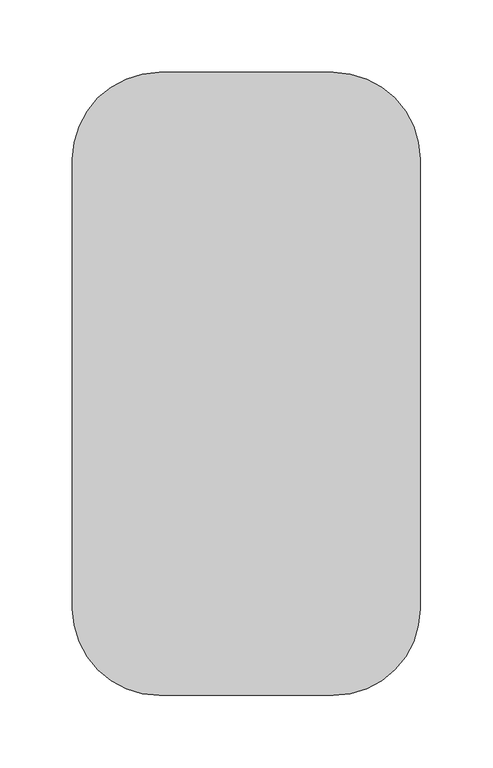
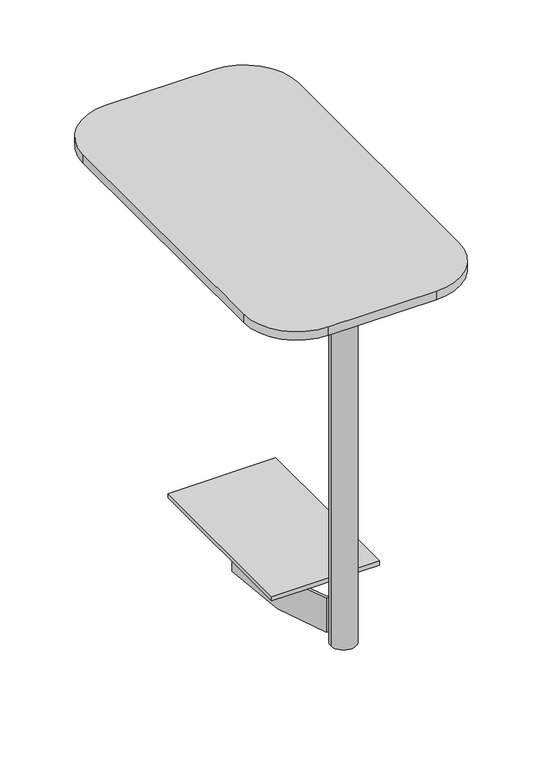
"""IFC4 building model written with IfcOpenShell, lengths in millimetres: furniture geometry, Nooa - table with leg : Nooa - table with leg."""

from ifc_helpers import new_model, si_unit, frame, origin, place, context, project, spatial, polyline, circle_curve, faceted_brep, source, transform, mapped, element, save
from ifc_brep_helpers import plane_surface, cylinder_surface, revolved_surface, advanced_brep


def furniture_c4283aa2(model_context):
    return source(origin(), model_context, "Body", "SolidModel", [
        advanced_brep(
        [(14.0, -30.0, 650.0), (14.0, -30.0, 238.0), (-14.0, -30.0, 238.0), (-14.0, -30.0, 650.0)],
        [
            (0, 1),
            (1, 2, circle_curve(frame((0.0, -30.0, 238.0), z_axis=(0.0, 0.0, 1.0), x_axis=(1.0, 0.0, 0.0)), 14.0)),
            (2, 3),
            (3, 0, circle_curve(frame((0.0, -30.0, 650.0), z_axis=(0.0, 0.0, -1.0), x_axis=(1.0, 0.0, 0.0)), 14.0)),
            (0, 3, circle_curve(frame((0.0, -30.0, 650.0), z_axis=(0.0, 0.0, -1.0), x_axis=(1.0, 0.0, 0.0)), 14.0)),
            (2, 1, circle_curve(frame((0.0, -30.0, 238.0), z_axis=(0.0, 0.0, 1.0), x_axis=(1.0, 0.0, 0.0)), 14.0)),
        ],
        [
            cylinder_surface(frame((0.0, -30.0, 444.0), z_axis=(0.0, 0.0, 1.0), x_axis=(1.0, 0.0, 0.0)), 14.0),
            plane_surface(frame((0.0, -30.0, 650.0), z_axis=(0.0, 0.0, 1.0), x_axis=(-1.0, 0.0, 0.0))),
            plane_surface(frame((0.0, -30.0, 238.0), z_axis=(0.0, 0.0, -1.0), x_axis=(1.0, 0.0, 0.0))),
        ],
        [
            (0, [[1, 2, 3, 4]]),
            (0, [[-1, 5, -3, 6]]),
            (1, [[-5, -4]]),
            (2, [[-2, -6]]),
        ],
    ),
        faceted_brep([(-33.1921909, 40.0, 246.0), (-52.8193803, 93.9747708, 264.5056357), (-50.0, 95.0, 264.8571429), (-30.0, 40.0, 246.0), (52.8193803, 93.9747708, 264.5056357), (33.1921909, 40.0, 246.0), (30.0, 40.0, 246.0), (50.0, 95.0, 264.8571429), (52.8193803, 93.9747708, 286.0000305), (20.4649182, 5.0, 286.0000305), (12.1012818, -18.0, 286.0000305), (12.1012818, -18.0, 246.0), (50.0, 95.0, 286.0000305), (-12.1012818, -18.0, 246.0), (-12.1012818, -18.0, 286.0000305), (-20.4649182, 5.0, 286.0000305), (-52.8193803, 93.9747708, 286.0000305), (-50.0, 95.0, 286.0000305), (-17.2727273, 5.0, 286.0000305), (-10.0, -15.0, 286.0000305), (-10.0, -15.0, 246.0), (10.0, -15.0, 246.0), (10.0, -15.0, 286.0000305), (17.2727273, 5.0, 286.0000305), (-60.0, 5.0, 286.0000305), (-60.0, 205.0, 286.0000305), (60.0, 205.0, 286.0000305), (60.0, 5.0, 286.0000305), (60.0, 5.0, 291.0), (60.0, 205.0, 291.0), (-60.0, 205.0, 291.0), (-60.0, 5.0, 291.0)], [[[0, 1, 2, 3]], [[4, 5, 6, 7]], [[5, 4, 8, 9, 10, 11]], [[4, 7, 12, 8]], [[1, 0, 13, 14, 15, 16]], [[2, 1, 16, 17]], [[3, 2, 17, 18, 19, 20]], [[21, 20, 19, 22]], [[7, 6, 21, 22, 23, 12]], [[13, 11, 10, 14]], [[18, 15, 14, 10, 9, 23, 22, 19]], [[6, 5, 11, 13, 0, 3, 20, 21]], [[16, 15, 24, 25, 26, 27, 9, 8, 12, 23, 18, 17]], [[28, 29, 30, 31]], [[31, 24, 15, 18, 23, 9, 27, 28]], [[30, 25, 24, 31]], [[29, 26, 25, 30]], [[28, 27, 26, 29]]]),
        advanced_brep(
        [(60.0, -60.0, 650.0), (-60.0, -60.0, 650.0), (-75.0, -45.0, 650.0), (-75.0, 265.0, 650.0), (-60.0, 280.0, 650.0), (60.0, 280.0, 650.0), (75.0, 265.0, 650.0), (75.0, -45.0, 650.0), (60.0, -105.0, 665.0), (-60.0, -105.0, 665.0), (120.0, -45.0, 665.0), (120.0, 265.0, 665.0), (60.0, 325.0, 665.0), (-60.0, 325.0, 665.0), (-120.0, 265.0, 665.0), (-120.0, -45.0, 665.0), (-60.0, -105.0, 675.0), (60.0, -105.0, 675.0), (120.0, -45.0, 675.0), (120.0, 265.0, 675.0), (60.0, 325.0, 675.0), (-60.0, 325.0, 675.0), (-120.0, 265.0, 675.0), (-120.0, -45.0, 675.0)],
        [
            (0, 1),
            (1, 2, circle_curve(frame((-60.0, -45.0, 650.0), z_axis=(0.0, 0.0, -1.0), x_axis=(-1.0, 0.0, 0.0)), 15.0)),
            (2, 3),
            (3, 4, circle_curve(frame((-60.0, 265.0, 650.0), z_axis=(0.0, 0.0, -1.0), x_axis=(0.0, 1.0, 0.0)), 15.0)),
            (4, 5),
            (5, 6, circle_curve(frame((60.0, 265.0, 650.0), z_axis=(0.0, 0.0, -1.0), x_axis=(1.0, 0.0, 0.0)), 15.0)),
            (6, 7),
            (7, 0, circle_curve(frame((60.0, -45.0, 650.0), z_axis=(0.0, 0.0, -1.0), x_axis=(0.0, -1.0, 0.0)), 15.0)),
            (8, 9),
            (9, 1),
            (0, 8),
            (10, 8, circle_curve(frame((60.0, -45.0, 665.0), z_axis=(0.0, 0.0, -1.0), x_axis=(0.0, -1.0, 0.0)), 60.0)),
            (7, 10),
            (11, 10),
            (6, 11),
            (12, 11, circle_curve(frame((60.0, 265.0, 665.0), z_axis=(0.0, 0.0, -1.0), x_axis=(1.0, 0.0, 0.0)), 60.0)),
            (5, 12),
            (13, 12),
            (4, 13),
            (14, 13, circle_curve(frame((-60.0, 265.0, 665.0), z_axis=(0.0, 0.0, -1.0), x_axis=(0.0, 1.0, 0.0)), 60.0)),
            (3, 14),
            (15, 14),
            (2, 15),
            (9, 15, circle_curve(frame((-60.0, -45.0, 665.0), z_axis=(0.0, 0.0, -1.0), x_axis=(-1.0, 0.0, 0.0)), 60.0)),
            (16, 17),
            (17, 18, circle_curve(frame((60.0, -45.0, 675.0), z_axis=(0.0, 0.0, 1.0), x_axis=(0.0, -0.9999999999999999, 0.0)), 60.0)),
            (18, 19),
            (19, 20, circle_curve(frame((60.0, 265.0, 675.0), z_axis=(0.0, 0.0, 1.0), x_axis=(1.0, 0.0, 0.0)), 60.0)),
            (20, 21),
            (21, 22, circle_curve(frame((-60.0, 265.0, 675.0), z_axis=(0.0, 0.0, 1.0), x_axis=(0.0, 1.0, 0.0)), 60.0)),
            (22, 23),
            (23, 16, circle_curve(frame((-60.0, -45.0, 675.0), z_axis=(0.0, 0.0, 1.0), x_axis=(-0.9999999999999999, 0.0, 0.0)), 60.0)),
            (16, 9),
            (8, 17),
            (10, 18),
            (11, 19),
            (12, 20),
            (13, 21),
            (14, 22),
            (15, 23),
        ],
        [
            plane_surface(frame((0.0, 110.0, 650.0), z_axis=(0.0, 0.0, -1.0), x_axis=(1.0, 0.0, 0.0))),
            plane_surface(frame((-60.0, -105.0, 665.0), z_axis=(0.0, -0.3162277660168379, -0.9486832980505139), x_axis=(1.0, 0.0, 0.0))),
            revolved_surface(polyline([(75.0, -45.0, 650.0), (120.0, -45.0, 665.0)]), (60.0, -45.0, 645.0), (0.0, 0.0, 1.0)),
            plane_surface(frame((120.0, -45.0, 665.0), z_axis=(0.31622776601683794, 0.0, -0.9486832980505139), x_axis=(0.9486832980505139, 0.0, 0.31622776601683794))),
            revolved_surface(polyline([(60.0, 280.0, 650.0), (60.0, 325.0, 665.0)]), (60.0, 265.0, 645.0), (0.0, 0.0, 1.0)),
            plane_surface(frame((60.0, 325.0, 665.0), z_axis=(0.0, 0.3162277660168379, -0.9486832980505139), x_axis=(1.0, 0.0, 0.0))),
            revolved_surface(polyline([(-75.0, 265.0, 650.0), (-120.0, 265.0, 665.0)]), (-60.0, 265.0, 645.0), (0.0, 0.0, 1.0)),
            plane_surface(frame((-120.0, 265.0, 665.0), z_axis=(-0.31622776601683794, 0.0, -0.9486832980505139), x_axis=(0.9486832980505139, 0.0, -0.31622776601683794))),
            revolved_surface(polyline([(-60.0, -60.0, 650.0), (-60.0, -105.0, 665.0)]), (-60.0, -45.0, 645.0), (0.0, 0.0, 1.0)),
            plane_surface(frame((0.0, 110.0, 675.0), z_axis=(0.0, 0.0, 1.0), x_axis=(1.0, 0.0, 0.0))),
            plane_surface(frame((-60.0, -105.0, 675.0), z_axis=(0.0, -1.0, 0.0), x_axis=(0.0, 0.0, 1.0))),
            cylinder_surface(frame((60.0, -45.0, 675.0), z_axis=(0.0, 0.0, -1.0), x_axis=(0.0, -0.9999999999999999, 0.0)), 60.0),
            plane_surface(frame((120.0, -45.0, 675.0), z_axis=(1.0, 0.0, 0.0), x_axis=(0.0, 0.0, 1.0))),
            cylinder_surface(frame((60.0, 265.0, 675.0), z_axis=(0.0, 0.0, -1.0), x_axis=(1.0, 0.0, 0.0)), 60.0),
            plane_surface(frame((60.0, 325.0, 675.0), z_axis=(0.0, 1.0, 0.0), x_axis=(0.0, 0.0, -1.0))),
            cylinder_surface(frame((-60.0, 265.0, 675.0), z_axis=(0.0, 0.0, -1.0), x_axis=(0.0, 1.0, 0.0)), 60.0),
            plane_surface(frame((-120.0, 265.0, 675.0), z_axis=(-1.0, 0.0, 0.0), x_axis=(0.0, 0.0, -1.0))),
            cylinder_surface(frame((-60.0, -45.0, 675.0), z_axis=(0.0, 0.0, -1.0), x_axis=(-0.9999999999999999, 0.0, 0.0)), 60.0),
        ],
        [
            (0, [[1, 2, 3, 4, 5, 6, 7, 8]]),
            (1, [[9, 10, -1, 11]]),
            (2, [[12, -11, -8, 13]]),
            (3, [[14, -13, -7, 15]]),
            (4, [[16, -15, -6, 17]]),
            (5, [[18, -17, -5, 19]]),
            (6, [[20, -19, -4, 21]]),
            (7, [[22, -21, -3, 23]]),
            (8, [[24, -23, -2, -10]]),
            (9, [[25, 26, 27, 28, 29, 30, 31, 32]]),
            (10, [[-25, 33, -9, 34]]),
            (11, [[-26, -34, -12, 35]]),
            (12, [[-27, -35, -14, 36]]),
            (13, [[-28, -36, -16, 37]]),
            (14, [[-29, -37, -18, 38]]),
            (15, [[-30, -38, -20, 39]]),
            (16, [[-31, -39, -22, 40]]),
            (17, [[-32, -40, -24, -33]]),
        ],
    ),
    ])


if __name__ == "__main__":
    model = new_model("IFC4")
    model_context = context("Model", 3, world=origin())
    ifc_project = project(units=[si_unit("LENGTHUNIT", "METRE", prefix="MILLI")], contexts=[model_context])
    site = spatial("IfcSite", under=ifc_project)
    building = spatial("IfcBuilding", under=site)
    placement = place(None, origin())
    furniture_shape = furniture_c4283aa2(model_context)
    element("IfcFurniture", 1, ObjectType="Nooa - table with leg : Nooa - table with leg", at=placement, inside=building, context=model_context, shape_type="MappedRepresentation", body=[
        mapped(furniture_shape, transform((0.0, 0.0, 0.0), x_axis=(1.0, 0.0, 0.0), y_axis=(0.0, 1.0, 0.0), z_axis=(0.0, 0.0, 1.0))),
    ])
    save(model, "model.ifc")
